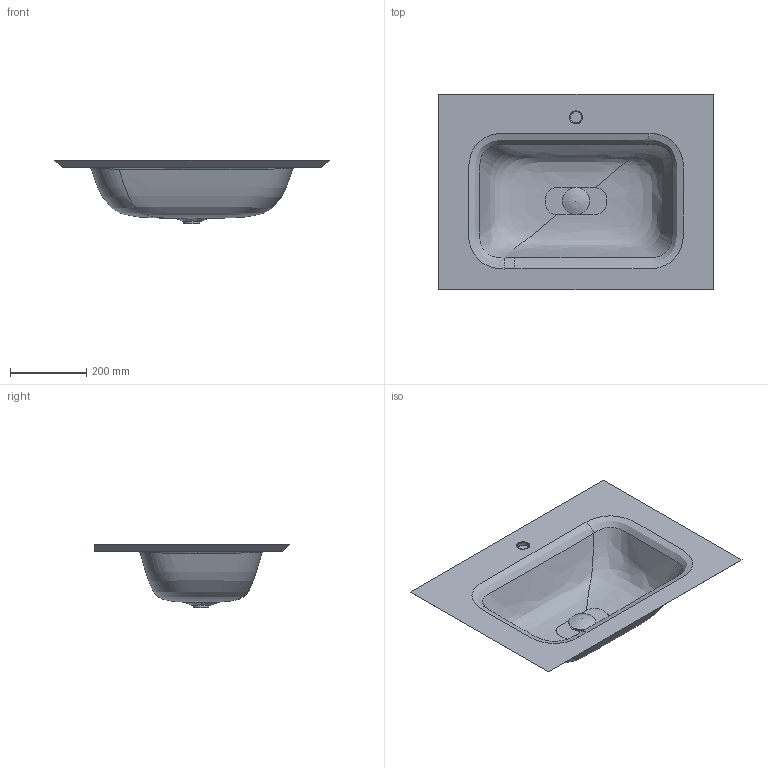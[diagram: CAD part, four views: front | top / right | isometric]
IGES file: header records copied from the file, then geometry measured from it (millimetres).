
Start section: Data from Parasolid IGES Translator 19.0.9, Copyright(c) 2006 Siemens PL M Software. All Rights Reserved.
Global section: file name: noorth-top-H 1,9 D 51,3 W 72_4782.igs; native system: By Siemens PLM Incorporated; preprocessor: XPlus GENERIC/IGES 19.0.9; author: Noname; organization: Noname; date: 20200603.103847; units: metre
Bounding box: 720 x 513 x 166.92 mm (x, y, z)
Volume: 6195950.2 mm3; surface area: 1020986.8 mm2
Topology: 4 solids, 4 shells, 69 faces, 211 edges, 152 vertices
Faces by surface type: plane 23, bspline 20, revolution 13, cylinder 9, extrusion 3, cone 1
Full cylindrical faces by diameter (mm): 0.043 x1, 19.989 x1, 30 x1, 62.239 x1, 71.973 x1
